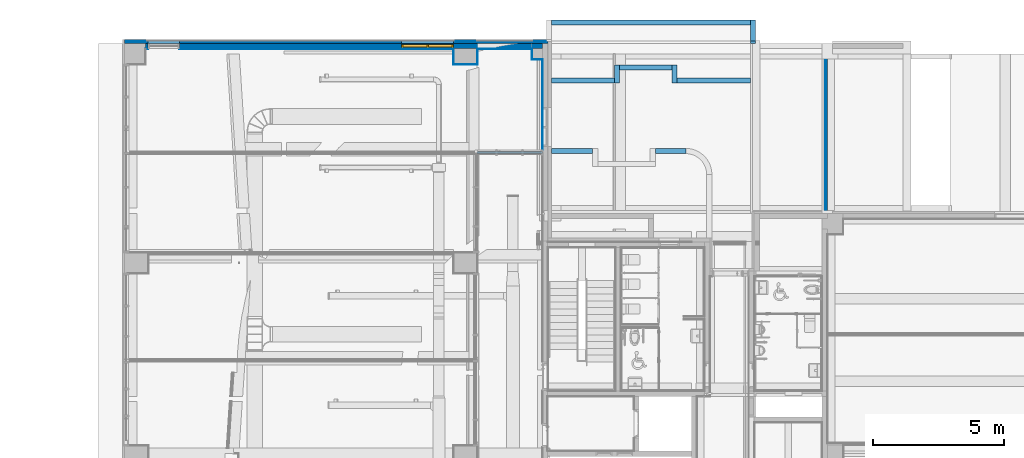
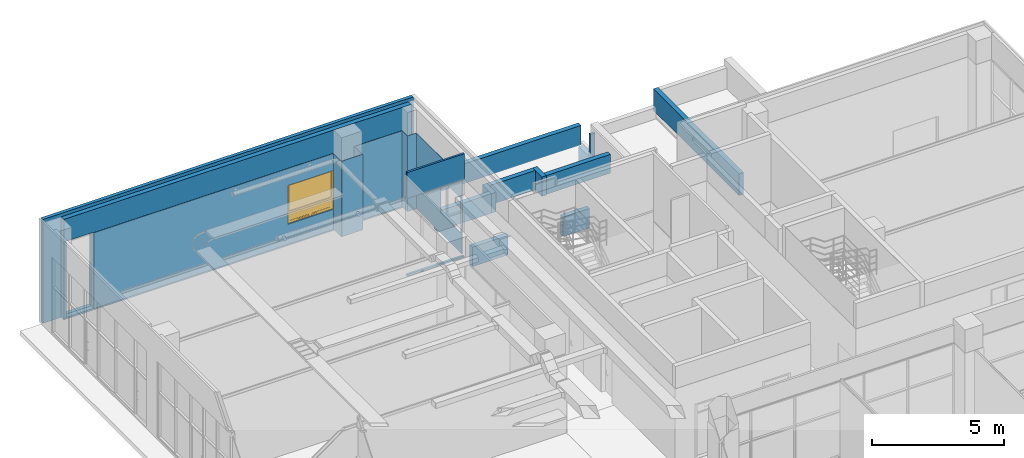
# One storey, part 53 of 100: 21 walls, 1 window, 8 openings.
"""IFC2X3 building model written with IfcOpenShell, lengths in millimetres."""

from ifc_helpers import new_model, entity, si_unit, converted_unit, derived_unit, direction, frame, frame_2d, origin, origin_2d_with_axis, place, context, subcontext, project, spatial, polyline, rectangle, extrude, clip, bounded_halfspace, faceted_brep, source, transform, mapped, material, material_list, layer, layer_set, layer_usage, type_object, type_shapes, element, fill, save


model = new_model("IFC2X3")

# Units and contexts
model_context = context("Model", 3, precision=0.01, world=origin(), true_north=direction((6.123031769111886e-17, 1.0)))
body_context = subcontext(model_context, "Body", "Model", "MODEL_VIEW")
ifc_project = project(units=[si_unit("LENGTHUNIT", "METRE", prefix="MILLI"), si_unit("AREAUNIT", "SQUARE_METRE"), si_unit("VOLUMEUNIT", "CUBIC_METRE"), converted_unit("PLANEANGLEUNIT", "DEGREE", entity("IfcRatioMeasure", 0.017453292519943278), si_unit("PLANEANGLEUNIT", "RADIAN"), dimensions=[0, 0, 0, 0, 0, 0, 0]), si_unit("MASSUNIT", "GRAM", prefix="KILO"), derived_unit("MASSDENSITYUNIT", [(si_unit("MASSUNIT", "GRAM", prefix="KILO"), 1), (si_unit("LENGTHUNIT", "METRE"), -3)]), derived_unit("MOMENTOFINERTIAUNIT", [(si_unit("LENGTHUNIT", "METRE"), 4)]), si_unit("TIMEUNIT", "SECOND"), si_unit("FREQUENCYUNIT", "HERTZ"), si_unit("THERMODYNAMICTEMPERATUREUNIT", "DEGREE_CELSIUS"), derived_unit("THERMALTRANSMITTANCEUNIT", [(si_unit("MASSUNIT", "GRAM", prefix="KILO"), 1), (si_unit("THERMODYNAMICTEMPERATUREUNIT", "KELVIN"), -1), (si_unit("TIMEUNIT", "SECOND"), -3)]), derived_unit("VOLUMETRICFLOWRATEUNIT", [(si_unit("LENGTHUNIT", "METRE"), 3), (si_unit("TIMEUNIT", "SECOND"), -1)]), derived_unit("MASSFLOWRATEUNIT", [(si_unit("MASSUNIT", "GRAM", prefix="KILO"), 1), (si_unit("TIMEUNIT", "SECOND"), -1)]), derived_unit("ROTATIONALFREQUENCYUNIT", [(si_unit("TIMEUNIT", "SECOND"), -1)]), si_unit("ELECTRICCURRENTUNIT", "AMPERE"), si_unit("ELECTRICVOLTAGEUNIT", "VOLT"), si_unit("POWERUNIT", "WATT"), si_unit("FORCEUNIT", "NEWTON", prefix="KILO"), si_unit("ILLUMINANCEUNIT", "LUX"), si_unit("LUMINOUSFLUXUNIT", "LUMEN"), si_unit("LUMINOUSINTENSITYUNIT", "CANDELA"), derived_unit("USERDEFINED", [(si_unit("MASSUNIT", "GRAM", prefix="KILO"), -1), (si_unit("LENGTHUNIT", "METRE"), -2), (si_unit("TIMEUNIT", "SECOND"), 3), (si_unit("LUMINOUSFLUXUNIT", "LUMEN"), 1)]), derived_unit("SOUNDPOWERUNIT", [(si_unit("MASSUNIT", "GRAM", prefix="KILO"), 1), (si_unit("LENGTHUNIT", "METRE"), 2), (si_unit("TIMEUNIT", "SECOND"), -3)]), derived_unit("SOUNDPRESSUREUNIT", [(si_unit("MASSUNIT", "GRAM", prefix="KILO"), 1), (si_unit("LENGTHUNIT", "METRE"), -1), (si_unit("TIMEUNIT", "SECOND"), -2)]), derived_unit("LINEARVELOCITYUNIT", [(si_unit("LENGTHUNIT", "METRE"), 1), (si_unit("TIMEUNIT", "SECOND"), -1)]), si_unit("PRESSUREUNIT", "PASCAL"), derived_unit("USERDEFINED", [(si_unit("LENGTHUNIT", "METRE"), -2), (si_unit("MASSUNIT", "GRAM", prefix="KILO"), 1), (si_unit("TIMEUNIT", "SECOND"), -2)]), derived_unit("LINEARFORCEUNIT", [(si_unit("MASSUNIT", "GRAM", prefix="KILO"), 1), (si_unit("LENGTHUNIT", "METRE"), 1), (si_unit("TIMEUNIT", "SECOND"), -2), (si_unit("LENGTHUNIT", "METRE"), -1)]), derived_unit("PLANARFORCEUNIT", [(si_unit("MASSUNIT", "GRAM", prefix="KILO"), 1), (si_unit("LENGTHUNIT", "METRE"), 1), (si_unit("TIMEUNIT", "SECOND"), -2), (si_unit("LENGTHUNIT", "METRE"), -2)])], contexts=[model_context])

# Site, building, storey
site_placement = place(None, frame((-14167.972527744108, -657.2125860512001, 0.0)))
site = spatial("IfcSite", under=ifc_project, at=site_placement, Name="Default", CompositionType="ELEMENT")
building_placement = place(site_placement, origin())
building = spatial("IfcBuilding", under=site, at=building_placement, Name="Sample Building", CompositionType="ELEMENT")
storey_placement = place(building_placement, origin())
storey = spatial("IfcBuildingStorey", under=building, at=storey_placement, Name="지상 1층", CompositionType="ELEMENT", Elevation=0.0)

# Walls
ifc_material_1 = material(Name="KBIMS-콘크리트")
ifc_layer_1 = layer(ifc_material_1, 200.0)
ifc_layer_set_1 = layer_set([ifc_layer_1], Name="기본 벽:WA111-철근콘크리트구조 벽 200mm_CW1")
ifc_layer_usage_1 = layer_usage(ifc_layer_set_1, "AXIS2", "NEGATIVE", 100.0)
wall_type_1 = type_object("IfcWallType", Name="기본 벽:WA111-철근콘크리트구조 벽 200mm_CW1", PredefinedType="STANDARD", material=ifc_layer_set_1)
wall_1_placement = place(storey_placement, frame((30417.97249113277, 36557.212275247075, -550.0)))
element("IfcWallStandardCase", 1, at=wall_1_placement, inside=storey, type_object=wall_type_1, material=ifc_layer_usage_1, Name="기본 벽:WA111-철근콘크리트구조 벽 200mm_CW1", ObjectType="기본 벽:WA111-철근콘크리트구조 벽 200mm_CW1", context=body_context, shape_type="SweptSolid", body=[
    extrude(rectangle(XDim=7599.999999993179, YDim=200.0000000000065, at=frame_2d((3799.9999999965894, -8.526512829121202e-14), x_axis=(-1.0, 0.0))), origin(), (0.0, 0.0, 1.0), 900.0000000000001),
])
ifc_layer_usage_2 = layer_usage(ifc_layer_set_1, "AXIS2", "NEGATIVE", 100.0)
wall_2_placement = place(storey_placement, frame((38117.97249112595, 36657.21227524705, -1560.0), z_axis=(0.0, 0.0, 1.0), x_axis=(0.0, -1.0, 0.0)))
element("IfcWallStandardCase", 2, at=wall_2_placement, inside=storey, type_object=wall_type_1, material=ifc_layer_usage_2, Name="기본 벽:WA111-철근콘크리트구조 벽 200mm_CW1", ObjectType="기본 벽:WA111-철근콘크리트구조 벽 200mm_CW1", context=body_context, shape_type="Clipping", body=[
    clip(extrude(rectangle(XDim=902.299967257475, YDim=199.99999999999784, at=frame_2d((451.1499836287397, 0.0), x_axis=(-1.0, 0.0))), origin(), (0.0, 0.0, 1.0), 1910.0), bounded_halfspace(frame((799.9999672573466, 100.0, 810.0), z_axis=(1.0, 0.0, 0.0), x_axis=(0.0, 0.0, 1.0)), True, frame((799.9999672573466, 100.0, 810.0), z_axis=(1.0, 0.0, 0.0), x_axis=(0.0, 0.0, 1.0)), polyline([(0.0, 0.0), (60960.0, 0.0), (60960.0, 60960.0), (0.0, 60960.0), (0.0, 0.0)]))),
])
ifc_layer_usage_3 = layer_usage(ifc_layer_set_1, "AXIS2", "NEGATIVE", 100.0)
wall_3_placement = place(storey_placement, frame((40867.96379814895, 35757.21230798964, 500.0), z_axis=(0.0, 0.0, 1.0), x_axis=(0.0, -1.0, 0.0)))
element("IfcWallStandardCase", 3, at=wall_3_placement, inside=storey, type_object=wall_type_1, material=ifc_layer_usage_3, Name="기본 벽:WA111-철근콘크리트구조 벽 200mm_CW1", ObjectType="기본 벽:WA111-철근콘크리트구조 벽 200mm_CW1", context=body_context, shape_type="SweptSolid", body=[
    extrude(rectangle(XDim=6500.000000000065, YDim=199.99999999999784, at=frame_2d((3250.0000000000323, 4.384048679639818e-12), x_axis=(-1.0, 0.0))), origin(), (0.0, 0.0, 1.0), 1000.0000000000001),
])
ifc_layer_usage_4 = layer_usage(ifc_layer_set_1, "AXIS2", "NEGATIVE", 100.0)
wall_4_placement = place(storey_placement, frame((30417.963761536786, 31642.5429300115, -550.0)))
element("IfcWallStandardCase", 4, at=wall_4_placement, inside=storey, type_object=wall_type_1, material=ifc_layer_usage_4, Name="기본 벽:WA111-철근콘크리트구조 벽 200mm_CW1", ObjectType="기본 벽:WA111-철근콘크리트구조 벽 200mm_CW1", context=body_context, shape_type="SweptSolid", body=[
    extrude(rectangle(XDim=1570.0433271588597, YDim=199.99999999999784, at=frame_2d((785.0216635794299, 0.0), x_axis=(-1.0, 0.0))), origin(), (0.0, 0.0, 1.0), 900.0000000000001),
])
ifc_layer_usage_5 = layer_usage(ifc_layer_set_1, "AXIS2", "NEGATIVE", 100.0)
wall_5_placement = place(storey_placement, frame((34388.00708869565, 31642.542930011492, -550.0)))
element("IfcWallStandardCase", 5, at=wall_5_placement, inside=storey, type_object=wall_type_1, material=ifc_layer_usage_5, Name="기본 벽:WA111-철근콘크리트구조 벽 200mm_CW1", ObjectType="기본 벽:WA111-철근콘크리트구조 벽 200mm_CW1", context=body_context, shape_type="SweptSolid", body=[
    extrude(rectangle(XDim=1159.9567094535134, YDim=199.99999999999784, at=frame_2d((579.9783547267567, 0.0), x_axis=(-1.0, 0.0))), origin(), (0.0, 0.0, 1.0), 900.0000000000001),
])
ifc_layer_usage_6 = layer_usage(ifc_layer_set_1, "AXIS2", "NEGATIVE", 100.0)
wall_6_placement = place(storey_placement, frame((30417.96376153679, 34342.5429675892, -550.0)))
element("IfcWallStandardCase", 6, at=wall_6_placement, inside=storey, type_object=wall_type_1, material=ifc_layer_usage_6, Name="기본 벽:WA111-철근콘크리트구조 벽 200mm_CW1", ObjectType="기본 벽:WA111-철근콘크리트구조 벽 200mm_CW1", context=body_context, shape_type="SweptSolid", body=[
    extrude(rectangle(XDim=2400.0433271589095, YDim=200.00000000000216, at=frame_2d((1200.0216635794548, -2.2524204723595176e-12), x_axis=(-1.0, 0.0))), origin(), (0.0, 0.0, 1.0), 900.0000000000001),
])
ifc_layer_usage_7 = layer_usage(ifc_layer_set_1, "AXIS2", "NEGATIVE", 100.0)
wall_7_placement = place(storey_placement, frame((33018.0070886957, 34842.54296758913, -550.0)))
element("IfcWallStandardCase", 7, at=wall_7_placement, inside=storey, type_object=wall_type_1, material=ifc_layer_usage_7, Name="기본 벽:WA111-철근콘크리트구조 벽 200mm_CW1", ObjectType="기본 벽:WA111-철근콘크리트구조 벽 200mm_CW1", context=body_context, shape_type="SweptSolid", body=[
    extrude(rectangle(XDim=2000.0000000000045, YDim=199.99999999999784, at=frame_2d((1000.0000000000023, -1.1013412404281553e-12), x_axis=(-1.0, 0.0))), origin(), (0.0, 0.0, 1.0), 900.0000000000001),
])
ifc_layer_usage_8 = layer_usage(ifc_layer_set_1, "AXIS2", "NEGATIVE", 100.0)
wall_8_placement = place(storey_placement, frame((38017.97249112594, 34342.54296758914, -520.0), z_axis=(0.0, 0.0, 1.0), x_axis=(-1.0, 0.0, 0.0)))
element("IfcWallStandardCase", 8, at=wall_8_placement, inside=storey, type_object=wall_type_1, material=ifc_layer_usage_8, Name="기본 벽:WA111-철근콘크리트구조 벽 200mm_CW1", ObjectType="기본 벽:WA111-철근콘크리트구조 벽 200mm_CW1", context=body_context, shape_type="SweptSolid", body=[
    extrude(rectangle(XDim=2799.965402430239, YDim=200.0000000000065, at=frame_2d((1399.9827012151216, -4.661160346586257e-12), x_axis=(-1.0, 0.0))), origin(), (0.0, 0.0, 1.0), 870.0000000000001),
])
ifc_layer_usage_9 = layer_usage(ifc_layer_set_1, "AXIS2", "NEGATIVE", 100.0)
wall_9_placement = place(storey_placement, frame((32918.0070886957, 34942.54296758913, -550.0), z_axis=(0.0, 0.0, 1.0), x_axis=(0.0, -1.0, 0.0)))
element("IfcWallStandardCase", 9, at=wall_9_placement, inside=storey, type_object=wall_type_1, material=ifc_layer_usage_9, Name="기본 벽:WA111-철근콘크리트구조 벽 200mm_CW1", ObjectType="기본 벽:WA111-철근콘크리트구조 벽 200mm_CW1", context=body_context, shape_type="SweptSolid", body=[
    extrude(rectangle(XDim=699.9999999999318, YDim=199.99999999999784, at=frame_2d((349.9999999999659, -1.2008172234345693e-12), x_axis=(-1.0, 0.0))), origin(), (0.0, 0.0, 1.0), 900.0000000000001),
])
ifc_layer_usage_10 = layer_usage(ifc_layer_set_1, "AXIS2", "NEGATIVE", 100.0)
wall_10_placement = place(storey_placement, frame((35118.007088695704, 34942.54296758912, -550.0), z_axis=(0.0, 0.0, 1.0), x_axis=(0.0, -1.0, 0.0)))
element("IfcWallStandardCase", 10, at=wall_10_placement, inside=storey, type_object=wall_type_1, material=ifc_layer_usage_10, Name="기본 벽:WA111-철근콘크리트구조 벽 200mm_CW1", ObjectType="기본 벽:WA111-철근콘크리트구조 벽 200mm_CW1", context=body_context, shape_type="SweptSolid", body=[
    extrude(rectangle(XDim=699.999999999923, YDim=199.99999999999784, at=frame_2d((349.9999999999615, -1.7053025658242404e-12), x_axis=(-1.0, 0.0))), origin(), (0.0, 0.0, 1.0), 900.0000000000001),
])

# Wall, openings, window
ifc_layer_2 = layer(ifc_material_1, 200.0)
ifc_layer_set_2 = layer_set([ifc_layer_2], Name="기본 벽:WA111-철근콘크리트구조 벽 200mm_W1")
ifc_layer_usage_11 = layer_usage(ifc_layer_set_2, "AXIS2", "NEGATIVE", 100.0)
wall_type_2 = type_object("IfcWallType", Name="기본 벽:WA111-철근콘크리트구조 벽 200mm_W1", PredefinedType="STANDARD", material=ifc_layer_set_2)
wall_11_placement = place(storey_placement, frame((14867.97245452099, 35657.21229514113, 0.0)))
wall_11 = element("IfcWallStandardCase", 11, at=wall_11_placement, inside=storey, type_object=wall_type_2, material=ifc_layer_usage_11, Name="기본 벽:WA111-철근콘크리트구조 벽 200mm_W1", ObjectType="기본 벽:WA111-철근콘크리트구조 벽 200mm_W1", context=body_context, shape_type="Clipping", body=[
    clip(extrude(rectangle(XDim=15198.153359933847, YDim=199.99999999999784, at=frame_2d((7599.076679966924, 1.2576606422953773e-12), x_axis=(-1.0, 0.0))), origin(), (0.0, 0.0, 1.0), 4650.000000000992), bounded_halfspace(frame((15198.153359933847, -100.0, 4650.0), z_axis=(0.0, 0.0, -1.0), x_axis=(1.0, 0.0, 0.0)), True, frame((15198.153359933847, -100.0, 4650.0), z_axis=(0.0, 0.0, -1.0), x_axis=(1.0, 0.0, 0.0)), polyline([(0.0, 0.0), (-121365.08181317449, 0.0), (-761442.421032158, -2.3000097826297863e-09), (-1035762.4210321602, -3.127320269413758e-09), (-4632397.144107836, -1.265221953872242e-08), (-4632397.144107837, -60960.0), (-837634.4590207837, -60960.0), (0.0, -60960.0), (0.0, 0.0)]))),
])
opening_1_placement = place(wall_11_placement, origin())
element("IfcOpeningElement", 12, at=opening_1_placement, cuts=wall_11, Name="기본 벽:WA111-철근콘크리트구조 벽 200mm_W1", ObjectType="Opening", context=body_context, shape_type="SweptSolid", body=[
    extrude(rectangle(XDim=3520.000000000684, YDim=1200.0, at=frame_2d((-1.1368683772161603e-13, 0.0), x_axis=(1.0, 0.0))), frame((700.0260314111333, -252.3999999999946, 1840.0), z_axis=(0.0, 1.0, 0.0), x_axis=(0.0, 0.0, 1.0)), (0.0, 0.0, 1.0), 504.79999999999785),
])
opening_2_placement = place(wall_11_placement, frame((11800.008809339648, 100.0, 1000.0)))
opening_2 = element("IfcOpeningElement", 13, at=opening_2_placement, cuts=wall_11, Name="WD842-2단 하부 더블 프로젝트 창(스테인리스 스틸):WD842-2단 하부 더블 프로젝트 창(스테인리스 스틸)_2000x1800mm:1", ObjectType="Opening", context=body_context, shape_type="SweptSolid", body=[
    extrude(rectangle(XDim=1799.9999999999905, YDim=1999.9999999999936, at=frame_2d((899.9999999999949, 999.9999999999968), x_axis=(1.0, 0.0))), frame((0.0, 0.0, 0.0), z_axis=(0.0, -1.0, 0.0), x_axis=(0.0, 0.0, 1.0)), (0.0, 0.0, 1.0), 200.0),
])
ifc_material_2 = material(Name="KBIMS-스테인리스 스틸_도금")
ifc_material_3 = material(Name="KBIMS-유리")
ifc_material_list_1 = material_list([ifc_material_2, ifc_material_3])
ifc_material_list_2 = material_list([ifc_material_2, ifc_material_3, ifc_material_2, ifc_material_3, ifc_material_2, ifc_material_2, ifc_material_3])
window_style = type_object("IfcWindowStyle", Name="WD842-2단 하부 더블 프로젝트 창(스테인리스 스틸):WD842-2단 하부 더블 프로젝트 창(스테인리스 스틸)_2000x1800mm", ConstructionType="NOTDEFINED", OperationType="NOTDEFINED", ParameterTakesPrecedence=False, Sizeable=False, material=ifc_material_list_2)
shared_shape = source(origin(), body_context, "Body", "Brep", [
    faceted_brep([(60.0, 37.49999999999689, 470.0), (60.0, 162.4999999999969, 470.0), (970.0, 162.4999999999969, 470.0), (970.0, 37.49999999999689, 470.0), (0.0, 162.4999999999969, 530.0), (0.0, 37.49999999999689, 530.0), (60.0, 37.49999999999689, 530.0), (1940.0, 37.49999999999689, 530.0), (2000.0, 37.49999999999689, 530.0), (2000.0, 162.4999999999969, 530.0), (1940.0, 162.4999999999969, 530.0), (60.0, 162.4999999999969, 530.0), (1940.0, 37.49999999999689, 470.0), (1940.0, 162.4999999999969, 470.0), (1940.0, 162.4999999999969, 60.0), (1940.0, 37.49999999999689, 60.0), (2000.0, 37.49999999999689, 0.0), (2000.0, 162.4999999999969, 0.0), (1030.0, 162.4999999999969, 60.0), (1030.0, 37.49999999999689, 60.0), (0.0, 37.49999999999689, 0.0), (0.0, 162.4999999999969, 0.0), (60.0, 37.49999999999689, 60.0), (60.0, 162.4999999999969, 60.0), (1030.0, 37.49999999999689, 470.0), (970.0, 37.49999999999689, 60.0), (1030.0, 162.4999999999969, 470.0), (970.0, 162.4999999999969, 60.0)], [[[0, 1, 2, 3]], [[4, 5, 6, 7, 8, 9, 10, 11]], [[12, 13, 14, 15]], [[9, 8, 16, 17]], [[15, 14, 18, 19]], [[17, 16, 20, 21]], [[1, 0, 22, 23]], [[8, 7, 6, 5, 20, 16], [12, 15, 19, 24], [0, 3, 25, 22]], [[5, 4, 21, 20]], [[14, 13, 26, 18], [23, 27, 2, 1], [4, 11, 10, 9, 17, 21]], [[18, 26, 24, 19]], [[2, 27, 25, 3]], [[23, 22, 25, 27]], [[13, 12, 24, 26]]], outer=[[True], [True], [True], [True], [True], [True], [True], [True, False, False], [True], [False, False, True], [True], [True], [True], [True]]),
    faceted_brep([(930.0, 151.0, 430.0), (930.0, 139.0, 430.0), (930.0, 139.0, 100.0), (930.0, 151.0, 100.0), (100.0, 139.0, 430.0), (100.0, 139.0, 100.0), (100.0, 151.0, 430.0), (100.0, 151.0, 100.0)], [[[0, 1, 2, 3]], [[1, 4, 5, 2]], [[4, 6, 7, 5]], [[0, 6, 4, 1]], [[3, 2, 5, 7]], [[6, 0, 3, 7]]]),
    faceted_brep([(110.0, 151.0, 420.0), (110.0, 160.0, 420.0), (920.0, 160.0, 420.0), (920.0, 151.0, 420.0), (100.0, 139.0, 430.0), (100.0, 151.0, 430.0), (930.0, 151.0, 430.0), (930.0, 139.0, 430.0), (110.0, 130.0, 420.0), (110.0, 139.0, 420.0), (920.0, 139.0, 420.0), (920.0, 130.0, 420.0), (60.0, 160.0, 470.0), (60.0, 130.0, 470.0), (970.0, 130.0, 470.0), (970.0, 160.0, 470.0), (920.0, 160.0, 110.0), (920.0, 151.0, 110.0), (930.0, 151.0, 100.0), (930.0, 139.0, 100.0), (920.0, 139.0, 110.0), (920.0, 130.0, 110.0), (970.0, 130.0, 60.0), (970.0, 160.0, 60.0), (110.0, 160.0, 110.0), (110.0, 151.0, 110.0), (100.0, 151.0, 100.0), (100.0, 139.0, 100.0), (110.0, 139.0, 110.0), (110.0, 130.0, 110.0), (60.0, 130.0, 60.0), (60.0, 160.0, 60.0)], [[[0, 1, 2, 3]], [[4, 5, 6, 7]], [[8, 9, 10, 11]], [[12, 13, 14, 15]], [[3, 2, 16, 17]], [[7, 6, 18, 19]], [[11, 10, 20, 21]], [[15, 14, 22, 23]], [[17, 16, 24, 25]], [[19, 18, 26, 27]], [[21, 20, 28, 29]], [[23, 22, 30, 31]], [[25, 24, 1, 0]], [[3, 17, 25, 0], [5, 26, 18, 6]], [[27, 26, 5, 4]], [[7, 19, 27, 4], [9, 28, 20, 10]], [[29, 28, 9, 8]], [[11, 21, 29, 8], [13, 30, 22, 14]], [[31, 30, 13, 12]], [[1, 24, 16, 2], [15, 23, 31, 12]]], outer=[[True], [True], [True], [True], [True], [True], [True], [True], [True], [True], [True], [True], [True], [False, True], [True], [True, False], [True], [False, True], [True], [False, True]]),
    faceted_brep([(1900.0, 151.0, 430.0), (1070.0, 151.0, 430.0), (1070.0, 139.0, 430.0), (1900.0, 139.0, 430.0), (1900.0, 151.0, 100.0), (1900.0, 139.0, 100.0), (1070.0, 139.0, 100.0), (1070.0, 151.0, 100.0)], [[[0, 1, 2, 3]], [[4, 5, 6, 7]], [[1, 0, 4, 7]], [[2, 1, 7, 6]], [[3, 2, 6, 5]], [[0, 3, 5, 4]]]),
    faceted_brep([(1070.0, 139.0, 100.0), (1070.0, 151.0, 100.0), (1070.0, 151.0, 430.0), (1070.0, 139.0, 430.0), (1890.0, 151.0, 420.0), (1890.0, 151.0, 110.0), (1080.0, 151.0, 110.0), (1080.0, 151.0, 420.0), (1900.0, 151.0, 100.0), (1900.0, 151.0, 430.0), (1080.0, 160.0, 110.0), (1080.0, 160.0, 420.0), (1890.0, 160.0, 420.0), (1890.0, 160.0, 110.0), (1900.0, 139.0, 430.0), (1900.0, 139.0, 100.0), (1890.0, 130.0, 420.0), (1890.0, 139.0, 420.0), (1890.0, 139.0, 110.0), (1890.0, 130.0, 110.0), (1080.0, 130.0, 420.0), (1080.0, 139.0, 420.0), (1030.0, 160.0, 470.0), (1030.0, 130.0, 470.0), (1940.0, 130.0, 470.0), (1940.0, 160.0, 470.0), (1940.0, 130.0, 60.0), (1940.0, 160.0, 60.0), (1080.0, 139.0, 110.0), (1080.0, 130.0, 110.0), (1030.0, 130.0, 60.0), (1030.0, 160.0, 60.0)], [[[0, 1, 2, 3]], [[4, 5, 6, 7], [2, 1, 8, 9]], [[6, 10, 11, 7]], [[4, 12, 13, 5]], [[14, 9, 8, 15]], [[16, 17, 18, 19]], [[7, 11, 12, 4]], [[3, 2, 9, 14]], [[20, 21, 17, 16]], [[22, 23, 24, 25]], [[25, 24, 26, 27]], [[5, 13, 10, 6]], [[15, 8, 1, 0]], [[19, 18, 28, 29]], [[27, 26, 30, 31]], [[14, 15, 0, 3], [21, 28, 18, 17]], [[29, 28, 21, 20]], [[16, 19, 29, 20], [23, 30, 26, 24]], [[31, 30, 23, 22]], [[11, 10, 13, 12], [25, 27, 31, 22]]], outer=[[True], [False, True], [True], [True], [True], [True], [True], [True], [True], [True], [True], [True], [True], [True], [True], [True, False], [True], [False, True], [True], [False, True]]),
    faceted_brep([(60.0, 37.50000000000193, 1740.0), (60.0, 162.50000000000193, 1740.0), (1940.0, 162.50000000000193, 1740.0), (1940.0, 37.50000000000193, 1740.0), (0.0, 162.50000000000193, 1800.0), (0.0, 37.50000000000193, 1800.0), (2000.0, 37.50000000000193, 1800.0), (2000.0, 162.50000000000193, 1800.0), (1940.0, 162.50000000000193, 530.0), (1940.0, 37.50000000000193, 530.0), (2000.0, 37.50000000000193, 530.0), (2000.0, 162.50000000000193, 530.0), (60.0, 37.50000000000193, 530.0), (60.0, 162.50000000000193, 530.0), (0.0, 37.50000000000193, 530.0), (0.0, 162.50000000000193, 530.0)], [[[0, 1, 2, 3]], [[4, 5, 6, 7]], [[3, 2, 8, 9]], [[7, 6, 10, 11]], [[1, 0, 12, 13]], [[0, 3, 9, 10, 6, 5, 14, 12]], [[5, 4, 15, 14]], [[2, 1, 13, 15, 4, 7, 11, 8]], [[13, 12, 14, 15]], [[9, 8, 11, 10]]]),
    faceted_brep([(1940.0, 106.0, 1740.0), (60.0, 106.0, 1740.0), (60.0, 94.0, 1740.0), (1940.0, 94.0, 1740.0), (1940.0, 106.0, 530.0), (60.0, 106.0, 530.0), (60.0, 94.0, 530.0), (1940.0, 94.0, 530.0)], [[[0, 1, 2, 3]], [[1, 0, 4, 5]], [[2, 1, 5, 6]], [[3, 2, 6, 7]], [[0, 3, 7, 4]], [[5, 4, 7, 6]]]),
])
type_shapes(window_style, [shared_shape])
window_placement = place(opening_2_placement, frame((0.0, 0.0, 0.0), z_axis=(0.0, 0.0, 1.0), x_axis=(-1.0, 0.0, 0.0)))
window = element("IfcWindow", 14, at=window_placement, inside=storey, type_object=window_style, material=ifc_material_list_1, Name="WD842-2단 하부 더블 프로젝트 창(스테인리스 스틸):WD842-2단 하부 더블 프로젝트 창(스테인리스 스틸)_2000x1800mm", ObjectType="WD842-2단 하부 더블 프로젝트 창(스테인리스 스틸):WD842-2단 하부 더블 프로젝트 창(스테인리스 스틸)_2000x1800mm", OverallHeight=1799.9999999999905, OverallWidth=1999.999999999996, context=body_context, shape_type="MappedRepresentation", body=[
    mapped(shared_shape, transform((0.0, 0.0, 0.0), scale=1.0)),
])
fill(opening_2, window)

# Wall, openings
ifc_material_4 = material(Name="WA240-ALC블록벽")
ifc_layer_3 = layer(ifc_material_4, 35.0)
ifc_material_5 = material(Name="WA795-(STEEL)BRACKET")
ifc_layer_4 = layer(ifc_material_5, 65.0)
ifc_material_6 = material(Name="WA821-압출스티로폼 벽 (본드붙임, 비중0.03) 50mm")
ifc_layer_5 = layer(ifc_material_6, 50.0)
ifc_layer_set_3 = layer_set([ifc_layer_3, ifc_layer_4, ifc_layer_5], Name="기본 벽:A2-22-02A-압출스티로폼, BRACKET(STEEL), ALC블록 (150mm)")
ifc_layer_usage_12 = layer_usage(ifc_layer_set_3, "AXIS2", "POSITIVE", -75.0)
wall_type_3 = type_object("IfcWallType", Name="기본 벽:A2-22-02A-압출스티로폼, BRACKET(STEEL), ALC블록 (150mm)", PredefinedType="STANDARD", material=ifc_layer_set_3)
wall_12_placement = place(storey_placement, frame((30267.963761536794, 35832.21229514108, 0.0), z_axis=(0.0, 0.0, 1.0), x_axis=(-1.0, 0.0, 0.0)))
wall_12 = element("IfcWallStandardCase", 15, at=wall_12_placement, inside=storey, type_object=wall_type_3, material=ifc_layer_usage_12, Name="기본 벽:A2-22-02A-압출스티로폼, BRACKET(STEEL), ALC블록 (150mm)", ObjectType="기본 벽:A2-22-02A-압출스티로폼, BRACKET(STEEL), ALC블록 (150mm)", context=body_context, shape_type="SweptSolid", body=[
    extrude(rectangle(XDim=16200.008656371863, YDim=150.00000000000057, at=frame_2d((8100.004328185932, 2.984279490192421e-13), x_axis=(-1.0, 0.0))), origin(), (0.0, 0.0, 1.0), 4800.000000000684),
])
opening_3_placement = place(wall_12_placement, origin())
element("IfcOpeningElement", 16, at=opening_3_placement, cuts=wall_12, Name="기본 벽:A2-22-02A-압출스티로폼, BRACKET(STEEL), ALC블록 (150mm)", ObjectType="Opening", context=body_context, shape_type="SweptSolid", body=[
    extrude(rectangle(XDim=3520.000000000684, YDim=1200.0, at=frame_2d((0.0, 0.0), x_axis=(0.0, 1.0))), frame((14699.96527560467, -227.4000000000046, 1840.0), z_axis=(0.0, 1.0, 0.0), x_axis=(-1.0, 0.0, 0.0)), (0.0, 0.0, 1.0), 454.8000000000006),
])
opening_4_placement = place(wall_12_placement, origin())
element("IfcOpeningElement", 17, at=opening_4_placement, cuts=wall_12, Name="기본 벽:A2-22-02A-압출스티로폼, BRACKET(STEEL), ALC블록 (150mm)", ObjectType="Opening", context=body_context, shape_type="SweptSolid", body=[
    extrude(rectangle(XDim=1799.9999999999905, YDim=1999.9999999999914, at=frame_2d((-5.684341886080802e-14, 2.2168933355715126e-12), x_axis=(1.0, 0.0))), frame((4599.982497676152, -1449.0, 1900.0), z_axis=(0.0, 1.0, 0.0), x_axis=(0.0, 0.0, 1.0)), (0.0, 0.0, 1.0), 3048.0),
])

# Wall, opening
ifc_material_7 = material(Name="KBIMS-시멘트 벽돌")
ifc_layer_6 = layer(ifc_material_7, 90.0)
ifc_layer_set_4 = layer_set([ifc_layer_6], Name="기본 벽:WA211-시멘트벽돌(일반) 벽 (0.5B) 90mm")
ifc_layer_usage_13 = layer_usage(ifc_layer_set_4, "AXIS2", "NEGATIVE", 45.0)
wall_type_4 = type_object("IfcWallType", Name="기본 벽:WA211-시멘트벽돌(일반) 벽 (0.5B) 90mm", PredefinedType="STANDARD", material=ifc_layer_set_4)
wall_13_placement = place(storey_placement, frame((27567.955141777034, 31587.17774810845, 0.0)))
wall_13 = element("IfcWallStandardCase", 18, at=wall_13_placement, inside=storey, type_object=wall_type_4, material=ifc_layer_usage_13, Name="기본 벽:WA211-시멘트벽돌(일반) 벽 (0.5B) 90mm", ObjectType="기본 벽:WA211-시멘트벽돌(일반) 벽 (0.5B) 90mm", context=body_context, shape_type="SweptSolid", body=[
    extrude(rectangle(XDim=2498.1706726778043, YDim=90.0000000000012, at=frame_2d((1249.0853363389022, -1.815436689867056e-12), x_axis=(-1.0, 0.0))), origin(), (0.0, 0.0, 1.0), 4799.999999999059),
])
opening_5_placement = place(wall_13_placement, origin())
element("IfcOpeningElement", 19, at=opening_5_placement, cuts=wall_13, Name="기본 벽:WA211-시멘트벽돌(일반) 벽 (0.5B) 90mm", ObjectType="Opening", context=body_context, shape_type="SweptSolid", body=[
    extrude(rectangle(XDim=3520.000000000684, YDim=2593.153323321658, at=frame_2d((-1.1368683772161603e-13, 0.0), x_axis=(1.0, 0.0))), frame((1201.594011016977, -197.4000000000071, 1840.0), z_axis=(0.0, 1.0, 0.0), x_axis=(0.0, 0.0, 1.0)), (0.0, 0.0, 1.0), 394.8000000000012),
])

# Wall, openings
ifc_material_8 = material(Name="WA611-수성페인트 (내부) 벽 (3회)")
ifc_layer_7 = layer(ifc_material_8, 1.0)
ifc_material_9 = material(Name="WA551-시멘트모르타르 (내부) 벽 18mm")
ifc_layer_8 = layer(ifc_material_9, 16.0)
ifc_material_10 = material(Name="WA555-콘크리트면정리 벽 (내부)")
ifc_layer_9 = layer(ifc_material_10, 1.0)
ifc_layer_set_5 = layer_set([ifc_layer_7, ifc_layer_8, ifc_layer_9], Name="기본 벽:A1-32-06A-콘크리트면정리, 시멘트모르타르(미장용), 수성페인트(내부) (18mm)")
ifc_layer_usage_14 = layer_usage(ifc_layer_set_5, "AXIS2", "POSITIVE", -9.000000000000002)
wall_type_5 = type_object("IfcWallType", Name="기본 벽:A1-32-06A-콘크리트면정리, 시멘트모르타르(미장용), 수성페인트(내부) (18mm)", PredefinedType="STANDARD", material=ifc_layer_set_5)
wall_14_placement = place(storey_placement, frame((14867.97245452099, 35548.19487839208, 80.0)))
wall_14 = element("IfcWallStandardCase", 20, at=wall_14_placement, inside=storey, type_object=wall_type_5, material=ifc_layer_usage_14, Name="기본 벽:A1-32-06A-콘크리트면정리, 시멘트모르타르(미장용), 수성페인트(내부) (18mm)", ObjectType="기본 벽:A1-32-06A-콘크리트면정리, 시멘트모르타르(미장용), 수성페인트(내부) (18mm)", context=body_context, shape_type="SweptSolid", body=[
    extrude(rectangle(XDim=18.00000000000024, YDim=11800.00003661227, at=frame_2d((5900.000018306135, -2.1662671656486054e-12), x_axis=(0.0, -1.0))), origin(), (0.0, 0.0, 1.0), 3500.0000000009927),
])
opening_6_placement = place(wall_14_placement, origin())
element("IfcOpeningElement", 21, at=opening_6_placement, cuts=wall_14, Name="기본 벽:A1-32-06A-콘크리트면정리, 시멘트모르타르(미장용), 수성페인트(내부) (18mm)", ObjectType="Opening", context=body_context, shape_type="SweptSolid", body=[
    extrude(rectangle(XDim=3520.000000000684, YDim=1200.0, at=frame_2d((-1.1368683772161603e-13, 0.0), x_axis=(1.0, 0.0))), frame((700.0260314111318, -161.39999999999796, 1760.0), z_axis=(0.0, 1.0, 0.0), x_axis=(0.0, 0.0, 1.0)), (0.0, 0.0, 1.0), 322.80000000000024),
])
opening_7_placement = place(wall_14_placement, origin())
element("IfcOpeningElement", 22, at=opening_7_placement, cuts=wall_14, Name="기본 벽:A1-32-06A-콘크리트면정리, 시멘트모르타르(미장용), 수성페인트(내부) (18mm)", ObjectType="Opening", context=body_context, shape_type="SweptSolid", body=[
    extrude(rectangle(XDim=1799.99999999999, YDim=1999.9999999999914, at=frame_2d((-2.2168933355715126e-12, -5.684341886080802e-14), x_axis=(0.0, 1.0))), frame((10800.008809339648, -1314.9825832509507, 1820.0), z_axis=(0.0, 1.0, 0.0), x_axis=(-1.0, 0.0, 0.0)), (0.0, 0.0, 1.0), 3048.0),
])

# Walls
ifc_layer_usage_15 = layer_usage(ifc_layer_set_5, "AXIS2", "POSITIVE", -9.000000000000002)
wall_15_placement = place(storey_placement, frame((26658.97249113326, 35539.194878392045, 80.0), z_axis=(0.0, 0.0, 1.0), x_axis=(0.0, -1.0, 0.0)))
element("IfcWallStandardCase", 23, at=wall_15_placement, inside=storey, type_object=wall_type_5, material=ifc_layer_usage_15, Name="기본 벽:A1-32-06A-콘크리트면정리, 시멘트모르타르(미장용), 수성페인트(내부) (18mm)", ObjectType="기본 벽:A1-32-06A-콘크리트면정리, 시멘트모르타르(미장용), 수성페인트(내부) (18mm)", context=body_context, shape_type="SweptSolid", body=[
    extrude(rectangle(XDim=600.0000145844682, YDim=18.00000000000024, at=frame_2d((300.0000072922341, -2.1662671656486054e-12), x_axis=(-1.0, 0.0))), origin(), (0.0, 0.0, 1.0), 3500.0000000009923),
])
ifc_layer_usage_16 = layer_usage(ifc_layer_set_5, "AXIS2", "POSITIVE", -9.000000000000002)
wall_16_placement = place(storey_placement, frame((26667.97249113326, 34948.19486380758, 80.0)))
element("IfcWallStandardCase", 24, at=wall_16_placement, inside=storey, type_object=wall_type_5, material=ifc_layer_usage_16, Name="기본 벽:A1-32-06A-콘크리트면정리, 시멘트모르타르(미장용), 수성페인트(내부) (18mm)", ObjectType="기본 벽:A1-32-06A-콘크리트면정리, 시멘트모르타르(미장용), 수성페인트(내부) (18mm)", context=body_context, shape_type="SweptSolid", body=[
    extrude(rectangle(XDim=918.0000000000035, YDim=18.00000000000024, at=frame_2d((459.00000000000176, -2.1227464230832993e-12), x_axis=(-1.0, 0.0))), origin(), (0.0, 0.0, 1.0), 3500.0000000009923),
])
ifc_layer_usage_17 = layer_usage(ifc_layer_set_5, "AXIS2", "POSITIVE", -9.000000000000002)
wall_17_placement = place(storey_placement, frame((27576.97249113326, 34957.19486380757, 80.0), z_axis=(0.0, 0.0, 1.0), x_axis=(0.0, 1.0, 0.0)))
element("IfcWallStandardCase", 25, at=wall_17_placement, inside=storey, type_object=wall_type_5, material=ifc_layer_usage_17, Name="기본 벽:A1-32-06A-콘크리트면정리, 시멘트모르타르(미장용), 수성페인트(내부) (18mm)", ObjectType="기본 벽:A1-32-06A-콘크리트면정리, 시멘트모르타르(미장용), 수성페인트(내부) (18mm)", context=body_context, shape_type="SweptSolid", body=[
    extrude(rectangle(XDim=600.0174313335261, YDim=18.00000000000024, at=frame_2d((300.00871566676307, -2.1662671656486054e-12), x_axis=(-1.0, 0.0))), origin(), (0.0, 0.0, 1.0), 3500.0000000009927),
])
ifc_layer_usage_18 = layer_usage(ifc_layer_set_5, "AXIS2", "POSITIVE", -9.000000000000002)
wall_18_placement = place(storey_placement, frame((27585.972491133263, 35548.21229514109, 80.0)))
element("IfcWallStandardCase", 26, at=wall_18_placement, inside=storey, type_object=wall_type_5, material=ifc_layer_usage_18, Name="기본 벽:A1-32-06A-콘크리트면정리, 시멘트모르타르(미장용), 수성페인트(내부) (18mm)", ObjectType="기본 벽:A1-32-06A-콘크리트면정리, 시멘트모르타르(미장용), 수성페인트(내부) (18mm)", context=body_context, shape_type="SweptSolid", body=[
    extrude(rectangle(XDim=2081.991270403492, YDim=18.00000000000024, at=frame_2d((1040.995635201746, -2.1449508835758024e-12), x_axis=(-1.0, 0.0))), origin(), (0.0, 0.0, 1.0), 3500.0000000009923),
])
ifc_layer_usage_19 = layer_usage(ifc_layer_set_5, "AXIS2", "POSITIVE", -9.000000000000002)
wall_19_placement = place(storey_placement, frame((29658.963761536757, 35539.212295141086, 80.0), z_axis=(0.0, 0.0, 1.0), x_axis=(0.0, -1.0, 0.0)))
element("IfcWallStandardCase", 27, at=wall_19_placement, inside=storey, type_object=wall_type_5, material=ifc_layer_usage_19, Name="기본 벽:A1-32-06A-콘크리트면정리, 시멘트모르타르(미장용), 수성페인트(내부) (18mm)", ObjectType="기본 벽:A1-32-06A-콘크리트면정리, 시멘트모르타르(미장용), 수성페인트(내부) (18mm)", context=body_context, shape_type="SweptSolid", body=[
    extrude(rectangle(XDim=400.01740390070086, YDim=18.00000000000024, at=frame_2d((200.00870195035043, -2.1662671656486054e-12), x_axis=(-1.0, 0.0))), origin(), (0.0, 0.0, 1.0), 3500.0000000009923),
])
ifc_layer_usage_20 = layer_usage(ifc_layer_set_5, "AXIS2", "POSITIVE", -9.000000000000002)
wall_20_placement = place(storey_placement, frame((29667.963761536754, 35148.19489124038, 80.0)))
element("IfcWallStandardCase", 28, at=wall_20_placement, inside=storey, type_object=wall_type_5, material=ifc_layer_usage_20, Name="기본 벽:A1-32-06A-콘크리트면정리, 시멘트모르타르(미장용), 수성페인트(내부) (18mm)", ObjectType="기본 벽:A1-32-06A-콘크리트면정리, 시멘트모르타르(미장용), 수성페인트(내부) (18mm)", context=body_context, shape_type="SweptSolid", body=[
    extrude(rectangle(XDim=398.1620529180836, YDim=18.00000000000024, at=frame_2d((199.0810264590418, -2.1662671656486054e-12), x_axis=(-1.0, 0.0))), origin(), (0.0, 0.0, 1.0), 3500.0000000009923),
])

# Wall, opening
ifc_layer_usage_21 = layer_usage(ifc_layer_set_5, "AXIS2", "POSITIVE", -9.000000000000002)
wall_21_placement = place(storey_placement, frame((30057.12581445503, 35139.19489124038, 80.0), z_axis=(0.0, 0.0, 1.0), x_axis=(0.0, -1.0, 0.0)))
wall_21 = element("IfcWallStandardCase", 29, at=wall_21_placement, inside=storey, type_object=wall_type_5, material=ifc_layer_usage_21, Name="기본 벽:A1-32-06A-콘크리트면정리, 시멘트모르타르(미장용), 수성페인트(내부) (18mm)", ObjectType="기본 벽:A1-32-06A-콘크리트면정리, 시멘트모르타르(미장용), 수성페인트(내부) (18mm)", context=body_context, shape_type="SweptSolid", body=[
    extrude(rectangle(XDim=3452.017143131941, YDim=18.00000000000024, at=frame_2d((1726.0085715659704, -2.20001794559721e-12), x_axis=(-1.0, 0.0))), origin(), (0.0, 0.0, 1.0), 3500.0000000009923),
])
opening_8_placement = place(wall_21_placement, origin())
element("IfcOpeningElement", 30, at=opening_8_placement, cuts=wall_21, Name="기본 벽:A1-32-06A-콘크리트면정리, 시멘트모르타르(미장용), 수성페인트(내부) (18mm)", ObjectType="Opening", context=body_context, shape_type="SweptSolid", body=[
    extrude(rectangle(XDim=1600.0000000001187, YDim=1499.9999999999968, at=origin_2d_with_axis()), frame((2581.9825960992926, -1515.0, 1720.0), z_axis=(0.0, 1.0, 0.0), x_axis=(0.0, 0.0, 1.0)), (0.0, 0.0, 1.0), 3048.0),
])

save(model, "model.ifc")
